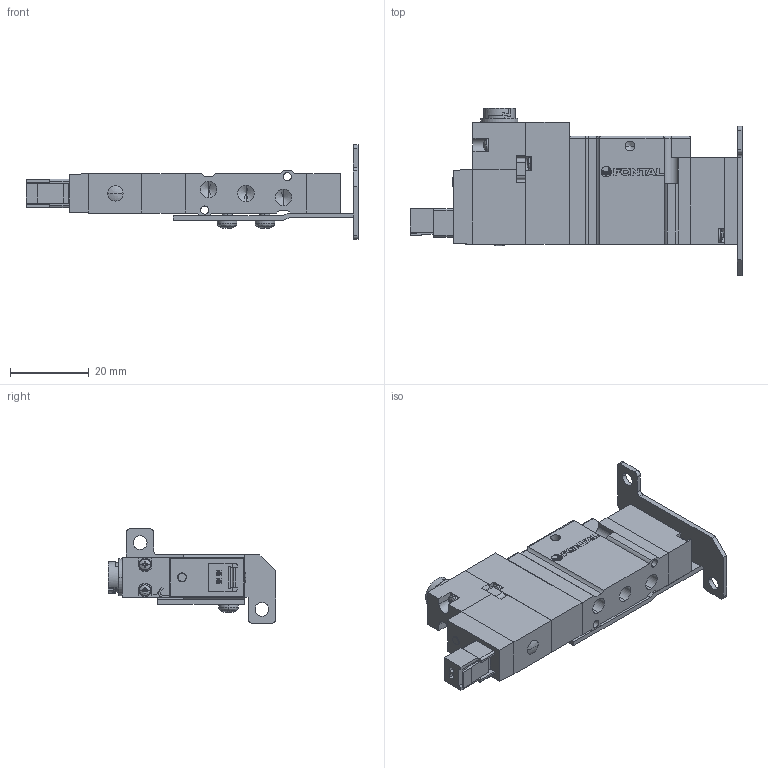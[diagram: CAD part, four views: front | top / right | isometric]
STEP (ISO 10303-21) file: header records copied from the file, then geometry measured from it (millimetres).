
FILE_DESCRIPTION (( 'STEP AP203' ), '1' );
FILE_NAME ('A05RS25#-BF-#-#-E.STEP', '2016-02-04T02:09:33', ( 'Sam Lin' ), ( '' ), 'SwSTEP 2.0', 'SolidWorks 2013', '' );
FILE_SCHEMA (( 'CONFIG_CONTROL_DESIGN' ));
Length unit declared in the file: metre
Products named in the file (16): A05RS25-4; A05RS25-11-3; A05RS25-5; ISO 7045 - M2.5 x 5; A05RS25-6; A05RS25#-BF-#-#-E; A05RS25-7; A05RS25-#-#-#; A05RS25-8; A05RS25-1; A05RS25-9; ISO 7045 - M1.6 x 10; A05RS25-10; A05RS25-2; mark-ADEX-A05RS; A05RS25-3
Assembly tree (23 placements, depth 2):
  A05RS25#-BF-#-#-E
    A05RS25-#-#-#
    A05RS25-1
    ISO 7045 - M1.6 x 10  x6
    A05RS25-2
    A05RS25-3
    A05RS25-4
    A05RS25-5
    A05RS25-6  x2
    A05RS25-7
    A05RS25-8  x2
    A05RS25-9
    A05RS25-10
    mark-ADEX-A05RS
    A05RS25-11-3
    ISO 7045 - M2.5 x 5  x2
Bounding box: 84.5 x 42.6 x 24 mm (x, y, z)
Volume: 19067.5 mm3; surface area: 15054.5 mm2
Topology: 30 solids, 30 shells, 827 faces, 2085 edges, 1310 vertices
Faces by surface type: plane 502, cylinder 167, cone 90, bspline 68
Entity records: 19162 total; most frequent: CARTESIAN_POINT 3997, ORIENTED_EDGE 2774, DIRECTION 2696, EDGE_CURVE 1387, LINE 934, VECTOR 934, VERTEX_POINT 902, AXIS2_PLACEMENT_3D 881
